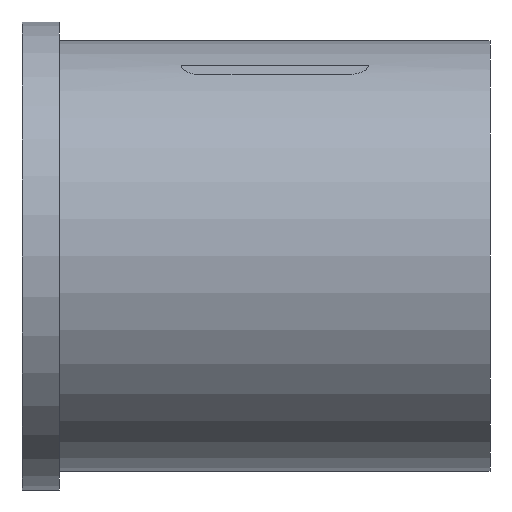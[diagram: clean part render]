
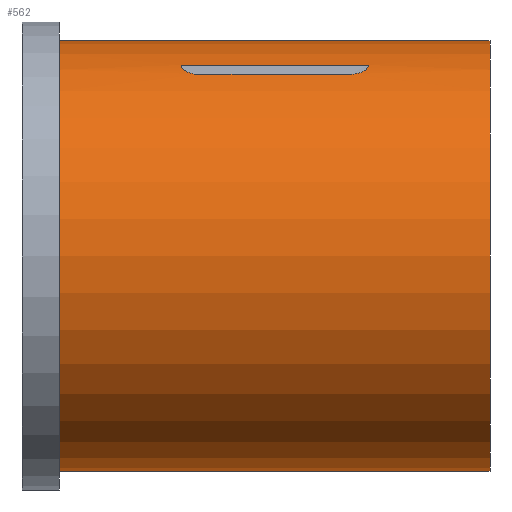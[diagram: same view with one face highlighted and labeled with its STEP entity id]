
A CAD part, left-side view. The second image highlights one B-rep face of the part: STEP entity #562.
In plain terms, the highlighted cylindrical face has radius 1.15 mm (diameter 2.3 mm), a partial arc.
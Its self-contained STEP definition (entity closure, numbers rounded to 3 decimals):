
#6 = VERTEX_POINT ( 'NONE', #275 ) ;
#11 = CARTESIAN_POINT ( 'NONE',  ( -0.531, -0.85, 1.02 ) ) ;
#13 = EDGE_LOOP ( 'NONE', ( #293, #657, #148, #464 ) ) ;
#14 = CARTESIAN_POINT ( 'NONE',  ( -0.544, -0.851, 1.013 ) ) ;
#15 = CARTESIAN_POINT ( 'NONE',  ( -0.618, -0.95, 0.97 ) ) ;
#22 = VECTOR ( 'NONE', #120, 1000. ) ;
#25 = EDGE_CURVE ( 'NONE', #153, #30, #357, .T. ) ;
#30 = VERTEX_POINT ( 'NONE', #155 ) ;
#42 = CARTESIAN_POINT ( 'NONE',  ( -0.593, -0.879, 0.985 ) ) ;
#47 = CARTESIAN_POINT ( 'NONE',  ( -0.551, -1.848, 1.009 ) ) ;
#51 = VECTOR ( 'NONE', #600, 1000. ) ;
#55 = EDGE_LOOP ( 'NONE', ( #333, #601, #444, #395 ) ) ;
#67 = VERTEX_POINT ( 'NONE', #533 ) ;
#68 = CARTESIAN_POINT ( 'NONE',  ( -0.56, -0.855, 1.004 ) ) ;
#83 = B_SPLINE_CURVE_WITH_KNOTS ( 'NONE', 3,
 ( #458, #642, #47, #374, #209, #535, #689, #685, #591, #586, #367, #269, #160, #474, #531, #639 ),
 .UNSPECIFIED., .F., .F.,
 ( 4, 3, 3, 3, 3, 4 ),
 ( 0., 0., 0., 0., 0., 0. ),
 .UNSPECIFIED. ) ;
#84 = CARTESIAN_POINT ( 'NONE',  ( -0.531, -1.85, 1.02 ) ) ;
#95 = EDGE_CURVE ( 'NONE', #649, #30, #244, .T. ) ;
#106 = CARTESIAN_POINT ( 'NONE',  ( -0.586, -0.871, 0.99 ) ) ;
#110 = DIRECTION ( 'NONE',  ( 0., 0., 1. ) ) ;
#111 = AXIS2_PLACEMENT_3D ( 'NONE', #608, #498, #130 ) ;
#119 = VERTEX_POINT ( 'NONE', #339 ) ;
#120 = DIRECTION ( 'NONE',  ( 0., 1., 0. ) ) ;
#130 = DIRECTION ( 'NONE',  ( 0., 0., 1. ) ) ;
#139 = CARTESIAN_POINT ( 'NONE',  ( -0.618, 0., 0.97 ) ) ;
#145 = CARTESIAN_POINT ( 'NONE',  ( 0., -2.5, -1.15 ) ) ;
#148 = ORIENTED_EDGE ( 'NONE', *, *, #300, .T. ) ;
#153 = VERTEX_POINT ( 'NONE', #174 ) ;
#155 = CARTESIAN_POINT ( 'NONE',  ( 0., -0.2, -1.15 ) ) ;
#160 = CARTESIAN_POINT ( 'NONE',  ( -0.616, -1.772, 0.971 ) ) ;
#174 = CARTESIAN_POINT ( 'NONE',  ( 0., -0.2, 1.15 ) ) ;
#176 = VERTEX_POINT ( 'NONE', #15 ) ;
#186 = EDGE_CURVE ( 'NONE', #649, #119, #415, .T. ) ;
#198 = DIRECTION ( 'NONE',  ( 0., 1., 0. ) ) ;
#199 = CARTESIAN_POINT ( 'NONE',  ( -0.531, 0., 1.02 ) ) ;
#202 = FACE_BOUND ( 'NONE', #13, .T. ) ;
#209 = CARTESIAN_POINT ( 'NONE',  ( -0.569, -1.841, 0.999 ) ) ;
#211 = CARTESIAN_POINT ( 'NONE',  ( -0.618, -0.939, 0.97 ) ) ;
#216 = B_SPLINE_CURVE_WITH_KNOTS ( 'NONE', 3,
 ( #217, #211, #629, #314, #528, #430, #582, #42, #106, #320, #548, #68, #602, #14, #344, #11 ),
 .UNSPECIFIED., .F., .F.,
 ( 4, 3, 3, 3, 3, 4 ),
 ( 0., 0., 0., 0., 0., 0. ),
 .UNSPECIFIED. ) ;
#217 = CARTESIAN_POINT ( 'NONE',  ( -0.618, -0.95, 0.97 ) ) ;
#244 = LINE ( 'NONE', #656, #51 ) ;
#246 = DIRECTION ( 'NONE',  ( 0., 0., 1. ) ) ;
#261 = LINE ( 'NONE', #199, #439 ) ;
#269 = CARTESIAN_POINT ( 'NONE',  ( -0.614, -1.783, 0.973 ) ) ;
#275 = CARTESIAN_POINT ( 'NONE',  ( -0.531, -0.85, 1.02 ) ) ;
#276 = EDGE_CURVE ( 'NONE', #6, #594, #261, .T. ) ;
#281 = AXIS2_PLACEMENT_3D ( 'NONE', #317, #490, #110 ) ;
#293 = ORIENTED_EDGE ( 'NONE', *, *, #368, .T. ) ;
#296 = LINE ( 'NONE', #396, #22 ) ;
#298 = CYLINDRICAL_SURFACE ( 'NONE', #578, 1.15 ) ;
#300 = EDGE_CURVE ( 'NONE', #594, #67, #83, .T. ) ;
#309 = FACE_OUTER_BOUND ( 'NONE', #55, .T. ) ;
#314 = CARTESIAN_POINT ( 'NONE',  ( -0.613, -0.917, 0.973 ) ) ;
#317 = CARTESIAN_POINT ( 'NONE',  ( 0., -0.2, 0. ) ) ;
#320 = CARTESIAN_POINT ( 'NONE',  ( -0.578, -0.865, 0.994 ) ) ;
#333 = ORIENTED_EDGE ( 'NONE', *, *, #95, .F. ) ;
#339 = CARTESIAN_POINT ( 'NONE',  ( 0., -2.5, 1.15 ) ) ;
#344 = CARTESIAN_POINT ( 'NONE',  ( -0.538, -0.85, 1.017 ) ) ;
#354 = LINE ( 'NONE', #139, #648 ) ;
#357 = CIRCLE ( 'NONE', #281, 1.15 ) ;
#367 = CARTESIAN_POINT ( 'NONE',  ( -0.61, -1.794, 0.975 ) ) ;
#368 = EDGE_CURVE ( 'NONE', #176, #6, #216, .T. ) ;
#374 = CARTESIAN_POINT ( 'NONE',  ( -0.56, -1.844, 1.004 ) ) ;
#395 = ORIENTED_EDGE ( 'NONE', *, *, #25, .T. ) ;
#396 = CARTESIAN_POINT ( 'NONE',  ( 0., 0., 1.15 ) ) ;
#402 = EDGE_CURVE ( 'NONE', #119, #153, #296, .T. ) ;
#409 = DIRECTION ( 'NONE',  ( 0., 1., 0. ) ) ;
#415 = CIRCLE ( 'NONE', #111, 1.15 ) ;
#430 = CARTESIAN_POINT ( 'NONE',  ( -0.605, -0.896, 0.978 ) ) ;
#439 = VECTOR ( 'NONE', #564, 1000. ) ;
#444 = ORIENTED_EDGE ( 'NONE', *, *, #402, .T. ) ;
#458 = CARTESIAN_POINT ( 'NONE',  ( -0.531, -1.85, 1.02 ) ) ;
#464 = ORIENTED_EDGE ( 'NONE', *, *, #525, .T. ) ;
#474 = CARTESIAN_POINT ( 'NONE',  ( -0.617, -1.765, 0.97 ) ) ;
#490 = DIRECTION ( 'NONE',  ( 0., -1., 0. ) ) ;
#498 = DIRECTION ( 'NONE',  ( 0., 1., 0. ) ) ;
#525 = EDGE_CURVE ( 'NONE', #67, #176, #354, .T. ) ;
#528 = CARTESIAN_POINT ( 'NONE',  ( -0.61, -0.906, 0.975 ) ) ;
#531 = CARTESIAN_POINT ( 'NONE',  ( -0.618, -1.757, 0.97 ) ) ;
#533 = CARTESIAN_POINT ( 'NONE',  ( -0.618, -1.75, 0.97 ) ) ;
#535 = CARTESIAN_POINT ( 'NONE',  ( -0.578, -1.835, 0.994 ) ) ;
#548 = CARTESIAN_POINT ( 'NONE',  ( -0.569, -0.859, 0.999 ) ) ;
#562 = ADVANCED_FACE ( 'NONE', ( #309, #202 ), #298, .T. ) ;
#564 = DIRECTION ( 'NONE',  ( 0., -1., 0. ) ) ;
#570 = CARTESIAN_POINT ( 'NONE',  ( 0., 0., 0. ) ) ;
#578 = AXIS2_PLACEMENT_3D ( 'NONE', #570, #198, #246 ) ;
#582 = CARTESIAN_POINT ( 'NONE',  ( -0.599, -0.888, 0.982 ) ) ;
#586 = CARTESIAN_POINT ( 'NONE',  ( -0.605, -1.803, 0.978 ) ) ;
#591 = CARTESIAN_POINT ( 'NONE',  ( -0.6, -1.813, 0.981 ) ) ;
#594 = VERTEX_POINT ( 'NONE', #84 ) ;
#600 = DIRECTION ( 'NONE',  ( 0., 1., 0. ) ) ;
#601 = ORIENTED_EDGE ( 'NONE', *, *, #186, .T. ) ;
#602 = CARTESIAN_POINT ( 'NONE',  ( -0.551, -0.852, 1.01 ) ) ;
#608 = CARTESIAN_POINT ( 'NONE',  ( 0., -2.5, 0. ) ) ;
#629 = CARTESIAN_POINT ( 'NONE',  ( -0.616, -0.927, 0.971 ) ) ;
#639 = CARTESIAN_POINT ( 'NONE',  ( -0.618, -1.75, 0.97 ) ) ;
#642 = CARTESIAN_POINT ( 'NONE',  ( -0.541, -1.85, 1.015 ) ) ;
#648 = VECTOR ( 'NONE', #409, 1000. ) ;
#649 = VERTEX_POINT ( 'NONE', #145 ) ;
#656 = CARTESIAN_POINT ( 'NONE',  ( 0., 0., -1.15 ) ) ;
#657 = ORIENTED_EDGE ( 'NONE', *, *, #276, .T. ) ;
#685 = CARTESIAN_POINT ( 'NONE',  ( -0.593, -1.821, 0.985 ) ) ;
#689 = CARTESIAN_POINT ( 'NONE',  ( -0.586, -1.828, 0.99 ) ) ;
